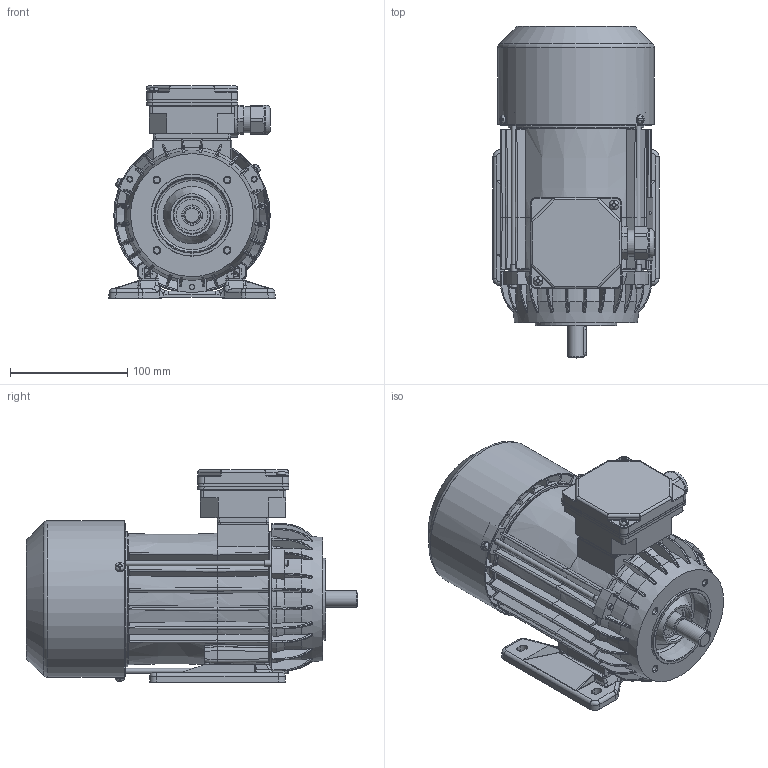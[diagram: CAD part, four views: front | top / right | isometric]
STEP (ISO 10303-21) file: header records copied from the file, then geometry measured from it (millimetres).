
FILE_DESCRIPTION(/* description */ ('Unknown'),/* implementation_level */ '2;1');
FILE_NAME(/* name */ '3SIEL71-8B2',/* time_stamp */ '2021-02-03T14:58:33+01:00',/* author */ ('Unknown'),/* organization */ ('Unknown'),/* preprocessor_version */ 'ST-DEVELOPER v16.7',/* originating_system */ 'Solid Edge',/* authorisation */ 'Unknown');
FILE_SCHEMA (('AUTOMOTIVE_DESIGN {1 0 10303 214 3 1 1}'));
Products named in the file (1): 3SIEL71-8B2
Bounding box: 141.93 x 283.48 x 181.5 mm (x, y, z)
Volume: 768652.2 mm3; surface area: 460999.4 mm2
Topology: 2 solids, 2 shells, 2838 faces, 7771 edges, 4939 vertices
Faces by surface type: plane 1143, cylinder 782, bspline 455, torus 228, cone 204, sphere 26
Full cylindrical faces by diameter (mm): 2 x2, 2.4 x2, 3.7 x4, 3.8 x4, 4 x2, 4.4 x3, 4.8 x2, 4.917 x4, 5 x8, 5.1 x3, 5.5 x3, 5.8 x4, 7 x1, 8 x6, 13.599 x1, 13.999 x1, 15.898 x1, 16.098 x1, 16.498 x1, 16.998 x2, 17.4 x2, 21.998 x2, 22.3 x1, 22.498 x1, 22.648 x1, 22.998 x1, 23.048 x1, 24.496 x4, 25 x1, 27 x1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
Entity records: 119383 total; most frequent: CARTESIAN_POINT 32534, ORIENTED_EDGE 14806, DIRECTION 12801, EDGE_CURVE 7403, AXIS2_PLACEMENT_3D 4847, VERTEX_POINT 4813, EDGE_LOOP 3266, FACE_BOUND 3266
